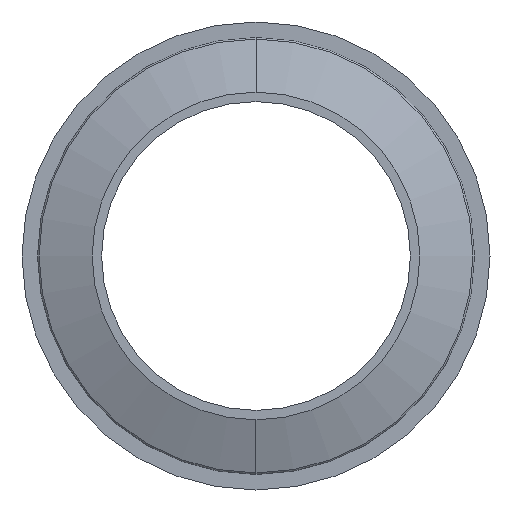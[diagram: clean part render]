
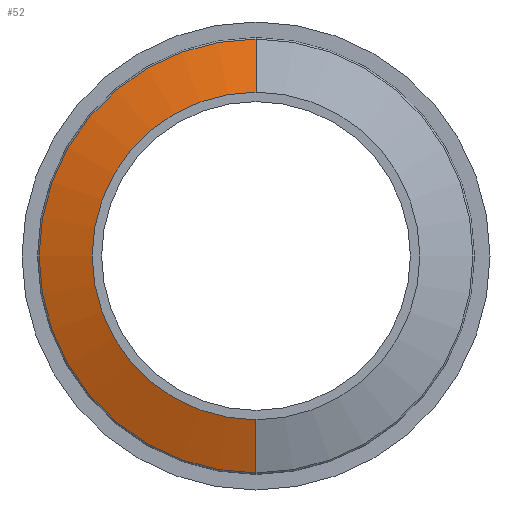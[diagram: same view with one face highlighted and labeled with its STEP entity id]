
A CAD part, left-side view. The second image highlights one B-rep face of the part: STEP entity #52.
In plain terms, the highlighted conical face has half-angle 70 degrees and reference radius 46.348 mm.
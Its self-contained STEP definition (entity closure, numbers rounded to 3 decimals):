
#18 = DIRECTION ( 'NONE',  ( 0.342, 0., 0.94 ) ) ;
#24 = DIRECTION ( 'NONE',  ( 0., 0., 1. ) ) ;
#32 = DIRECTION ( 'NONE',  ( 1., 0., 0. ) ) ;
#34 = EDGE_CURVE ( 'NONE', #303, #276, #295, .T. ) ;
#52 = ADVANCED_FACE ( 'NONE', ( #118 ), #161, .T. ) ;
#61 = ORIENTED_EDGE ( 'NONE', *, *, #521, .F. ) ;
#63 = EDGE_LOOP ( 'NONE', ( #409, #106, #187, #61 ) ) ;
#67 = CARTESIAN_POINT ( 'NONE',  ( -14.719, 0., 0. ) ) ;
#76 = DIRECTION ( 'NONE',  ( 0., 0., -1. ) ) ;
#99 = VECTOR ( 'NONE', #361, 1000. ) ;
#106 = ORIENTED_EDGE ( 'NONE', *, *, #354, .T. ) ;
#114 = DIRECTION ( 'NONE',  ( 0., 0., 1. ) ) ;
#116 = AXIS2_PLACEMENT_3D ( 'NONE', #443, #32, #76 ) ;
#118 = FACE_OUTER_BOUND ( 'NONE', #63, .T. ) ;
#126 = CARTESIAN_POINT ( 'NONE',  ( -14.719, 0., 35. ) ) ;
#127 = VERTEX_POINT ( 'NONE', #448 ) ;
#161 = CONICAL_SURFACE ( 'NONE', #116, 46.348, 1.222 ) ;
#175 = CARTESIAN_POINT ( 'NONE',  ( -10.589, 0., 46.348 ) ) ;
#178 = DIRECTION ( 'NONE',  ( -1., 0., 0. ) ) ;
#186 = AXIS2_PLACEMENT_3D ( 'NONE', #283, #485, #114 ) ;
#187 = ORIENTED_EDGE ( 'NONE', *, *, #34, .T. ) ;
#217 = VERTEX_POINT ( 'NONE', #126 ) ;
#251 = CIRCLE ( 'NONE', #252, 35. ) ;
#252 = AXIS2_PLACEMENT_3D ( 'NONE', #67, #178, #24 ) ;
#276 = VERTEX_POINT ( 'NONE', #453 ) ;
#283 = CARTESIAN_POINT ( 'NONE',  ( -10.589, 0., 0. ) ) ;
#295 = CIRCLE ( 'NONE', #186, 46.348 ) ;
#298 = VECTOR ( 'NONE', #18, 1000. ) ;
#303 = VERTEX_POINT ( 'NONE', #175 ) ;
#313 = LINE ( 'NONE', #395, #99 ) ;
#354 = EDGE_CURVE ( 'NONE', #217, #303, #504, .T. ) ;
#361 = DIRECTION ( 'NONE',  ( 0.342, 0., -0.94 ) ) ;
#392 = CARTESIAN_POINT ( 'NONE',  ( -10.589, 0., 46.348 ) ) ;
#395 = CARTESIAN_POINT ( 'NONE',  ( -10.589, 0., -46.348 ) ) ;
#409 = ORIENTED_EDGE ( 'NONE', *, *, #436, .F. ) ;
#436 = EDGE_CURVE ( 'NONE', #217, #127, #251, .T. ) ;
#443 = CARTESIAN_POINT ( 'NONE',  ( -10.589, 0., 0. ) ) ;
#448 = CARTESIAN_POINT ( 'NONE',  ( -14.719, 0., -35. ) ) ;
#453 = CARTESIAN_POINT ( 'NONE',  ( -10.589, 0., -46.348 ) ) ;
#485 = DIRECTION ( 'NONE',  ( -1., 0., 0. ) ) ;
#504 = LINE ( 'NONE', #392, #298 ) ;
#521 = EDGE_CURVE ( 'NONE', #127, #276, #313, .T. ) ;
